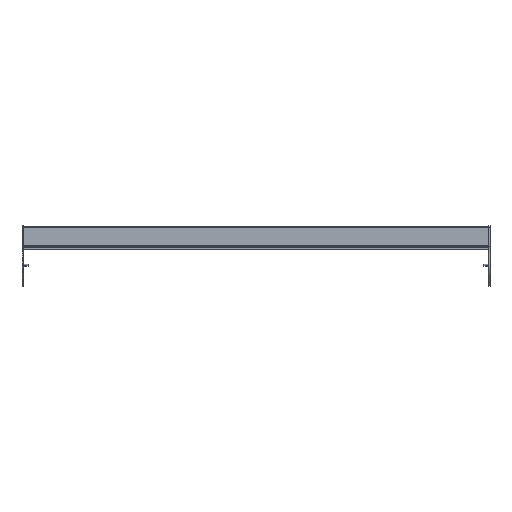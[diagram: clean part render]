
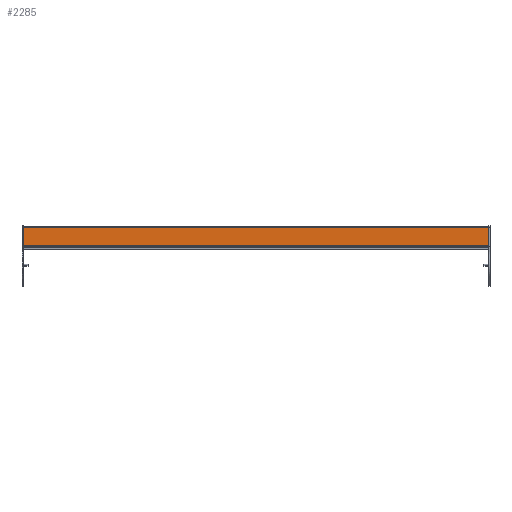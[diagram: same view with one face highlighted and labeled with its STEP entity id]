
A CAD part, top view. The second image highlights one B-rep face of the part: STEP entity #2285.
In plain terms, the highlighted planar face has unit normal (0, 0, 1) as drawn and (1, 0, 0) by its records, which use the part's own axes.
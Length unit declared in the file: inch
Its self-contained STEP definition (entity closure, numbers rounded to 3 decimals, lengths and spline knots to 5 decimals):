
#197=DIRECTION('',(0.,1.,0.));
#198=VECTOR('',#197,1.81445);
#199=CARTESIAN_POINT('',(0.683,-0.84545,-24.118));
#200=LINE('',#199,#198);
#303=DIRECTION('',(0.,1.,0.));
#304=VECTOR('',#303,1.81445);
#305=CARTESIAN_POINT('',(0.683,-0.84545,24.118));
#306=LINE('',#305,#304);
#646=DIRECTION('',(0.,0.,1.));
#647=VECTOR('',#646,48.236);
#648=CARTESIAN_POINT('',(0.683,0.969,-24.118));
#649=LINE('',#648,#647);
#659=DIRECTION('',(0.,0.,-1.));
#660=VECTOR('',#659,48.236);
#661=CARTESIAN_POINT('',(0.683,-0.84545,24.118));
#662=LINE('',#661,#660);
#1270=CARTESIAN_POINT('',(0.683,-0.84545,-24.118));
#1271=CARTESIAN_POINT('',(0.683,0.969,-24.118));
#1272=VERTEX_POINT('',#1270);
#1273=VERTEX_POINT('',#1271);
#1274=CARTESIAN_POINT('',(0.683,-0.84545,24.118));
#1275=CARTESIAN_POINT('',(0.683,0.969,24.118));
#1276=VERTEX_POINT('',#1274);
#1277=VERTEX_POINT('',#1275);
#2273=CARTESIAN_POINT('',(0.683,-0.86334,-24.118));
#2274=DIRECTION('',(1.,0.,0.));
#2275=DIRECTION('',(0.,1.,0.));
#2276=AXIS2_PLACEMENT_3D('',#2273,#2274,#2275);
#2277=PLANE('',#2276);
#2278=ORIENTED_EDGE('',*,*,#1631,.F.);
#2280=ORIENTED_EDGE('',*,*,#2279,.F.);
#2281=ORIENTED_EDGE('',*,*,#1734,.T.);
#2282=ORIENTED_EDGE('',*,*,#2266,.F.);
#2283=EDGE_LOOP('',(#2278,#2280,#2281,#2282));
#2284=FACE_OUTER_BOUND('',#2283,.F.);
#1631=EDGE_CURVE('',#1272,#1273,#200,.T.);
#1734=EDGE_CURVE('',#1276,#1277,#306,.T.);
#2266=EDGE_CURVE('',#1273,#1277,#649,.T.);
#2279=EDGE_CURVE('',#1276,#1272,#662,.T.);
#2285=ADVANCED_FACE('',(#2284),#2277,.T.);
